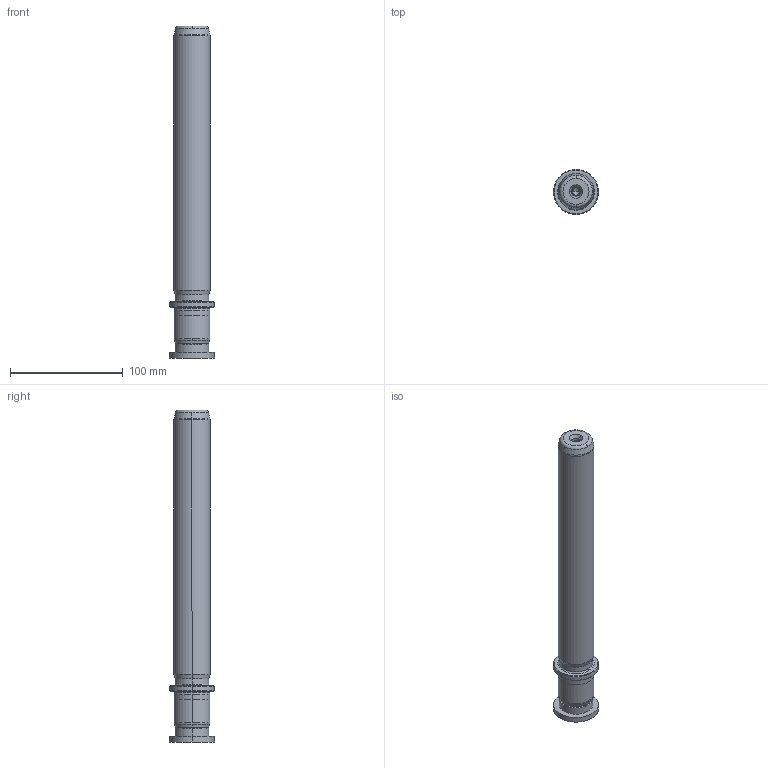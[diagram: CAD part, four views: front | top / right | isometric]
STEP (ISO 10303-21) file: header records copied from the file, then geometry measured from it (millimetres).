
FILE_DESCRIPTION((''),'2;1');
FILE_NAME('P22_032_250.stp','2009-02-03T14:03:11',(''),(''),'Mechanical Desktop 2009','Mechanical Desktop 2009',', , ');
FILE_SCHEMA(('CONFIG_CONTROL_DESIGN'));
Length unit declared in the file: millimetre
Products named in the file (2): Product; blmdl1
Assembly tree (1 placements, depth 2):
  Product
    blmdl1
Bounding box: 40 x 40 x 295 mm (x, y, z)
Volume: 236382.2 mm3; surface area: 36938.3 mm2
Topology: 3 solids, 3 shells, 99 faces, 237 edges, 149 vertices
Faces by surface type: cylinder 32, cone 28, plane 19, torus 10, bspline 10
Entity records: 3419 total; most frequent: CARTESIAN_POINT 923, DIRECTION 570, ORIENTED_EDGE 466, AXIS2_PLACEMENT_3D 246, EDGE_CURVE 233, CIRCLE 155, VERTEX_POINT 149, EDGE_LOOP 110
